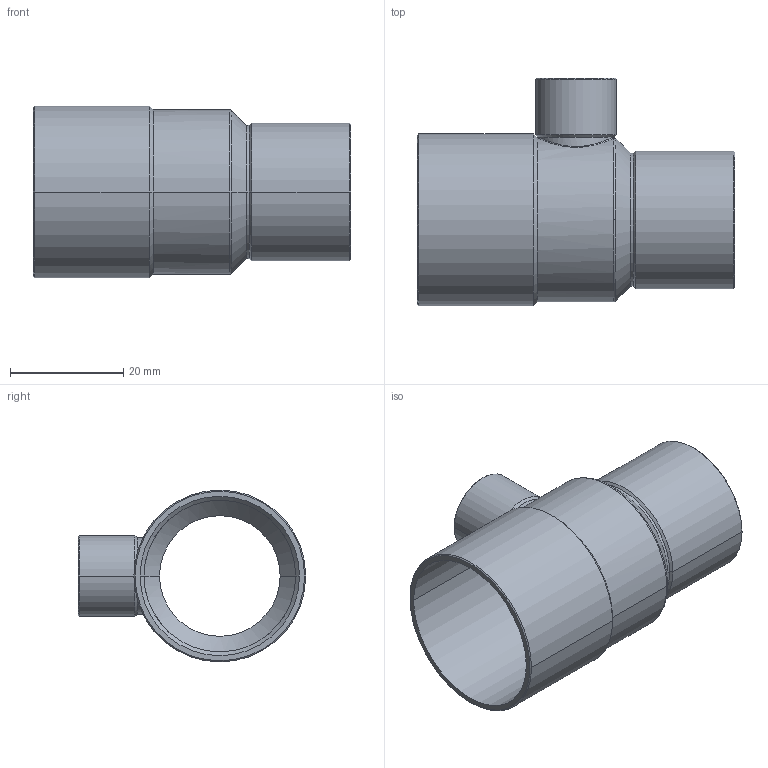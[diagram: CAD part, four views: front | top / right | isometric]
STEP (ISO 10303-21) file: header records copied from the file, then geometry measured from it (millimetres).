
FILE_DESCRIPTION((''),'2;1');
FILE_NAME('G:\Technics\CAD\Bauteile\15130\15130281222.stp','2005-11-03T13:42:38',('boden'),(''),'Autodesk Inventor 8','Autodesk Inventor 8','');
FILE_SCHEMA(('AUTOMOTIVE_DESIGN { 1 0 10303 214 1 1 1 1 }'));
Length unit declared in the file: millimetre
Products named in the file (1): 15130281222
Bounding box: 55.99 x 40.17 x 30.35 mm (x, y, z)
Volume: 5686.2 mm3; surface area: 10547.2 mm2
Topology: 1 solids, 1 shells, 59 faces, 136 edges, 78 vertices
Faces by surface type: cone 26, cylinder 24, torus 3, bspline 3, plane 3
Entity records: 2184 total; most frequent: CARTESIAN_POINT 827, DIRECTION 293, ORIENTED_EDGE 272, EDGE_CURVE 136, AXIS2_PLACEMENT_3D 123, VERTEX_POINT 78, CIRCLE 66, EDGE_LOOP 62
